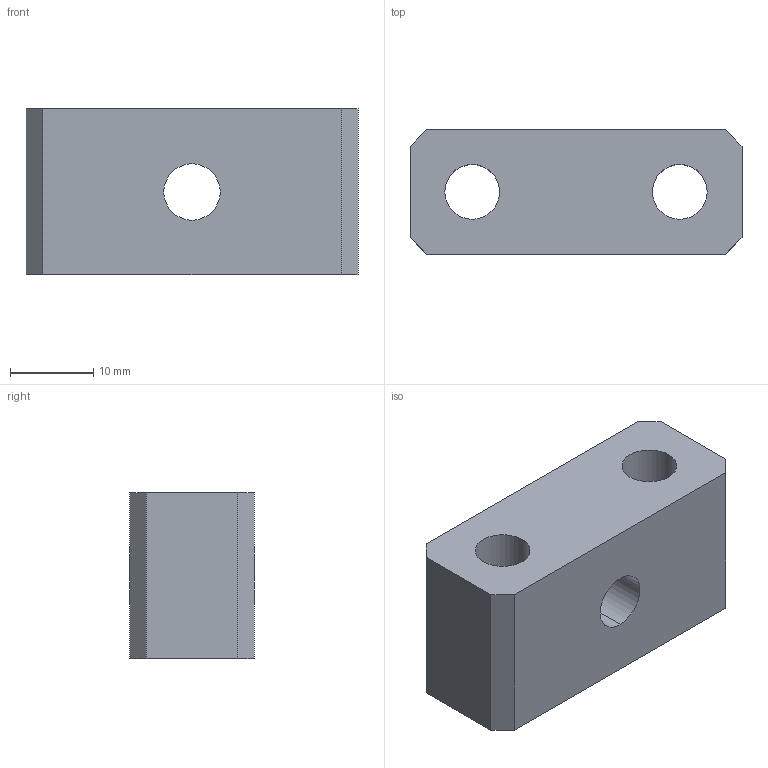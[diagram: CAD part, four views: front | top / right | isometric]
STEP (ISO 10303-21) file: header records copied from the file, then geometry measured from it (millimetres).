
FILE_DESCRIPTION (( 'STEP AP203' ), '1' );
FILE_NAME ('YWSD-2026-03-01-05=007 皮带涨紧调整块.STEP', '2026-07-24T07:41:17', ( 'Windows 用户' ), ( '' ), 'SwSTEP 2.0', 'SolidWorks 2024', '' );
FILE_SCHEMA (( 'CONFIG_CONTROL_DESIGN' ));
Length unit declared in the file: millimetre
Products named in the file (1): YWSD-2026-03-01-05=007 皮带涨紧调整块
Bounding box: 40 x 15 x 20 mm (x, y, z)
Volume: 9148.3 mm3; surface area: 4407.6 mm2
Topology: 1 solids, 1 shells, 22 faces, 54 edges, 36 vertices
Faces by surface type: plane 12, cylinder 10
Entity records: 747 total; most frequent: DIRECTION 120, CARTESIAN_POINT 113, ORIENTED_EDGE 108, EDGE_CURVE 54, AXIS2_PLACEMENT_3D 43, VERTEX_POINT 36, VECTOR 34, LINE 34
